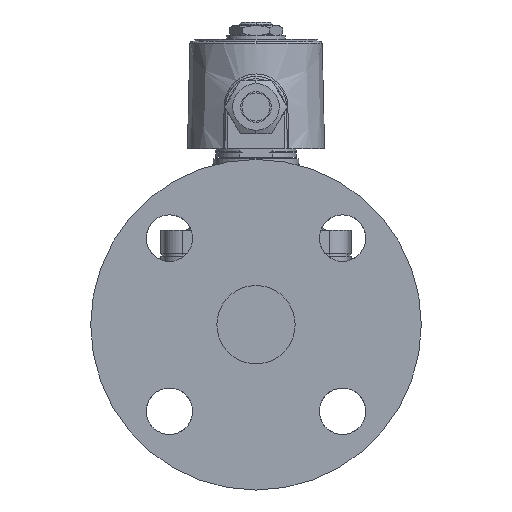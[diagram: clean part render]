
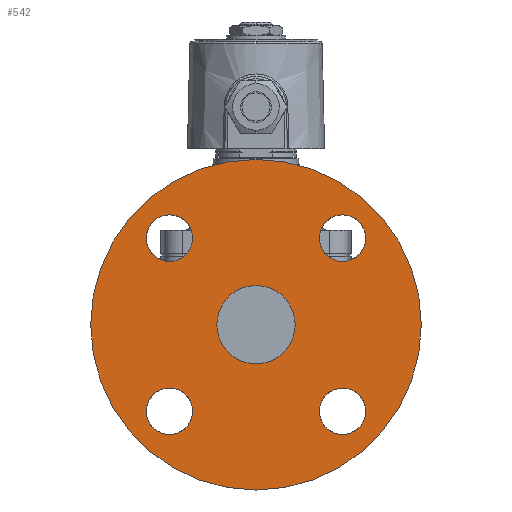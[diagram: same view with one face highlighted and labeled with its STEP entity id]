
A CAD part, left-side view. The second image highlights one B-rep face of the part: STEP entity #542.
In plain terms, the highlighted planar face has unit normal (-1, 0, 0).
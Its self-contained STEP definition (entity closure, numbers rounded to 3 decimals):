
#542=ADVANCED_FACE('',(#4184,#4185,#4186,#4187,#4188,#4189),#4183,.F.);
#4183=PLANE('',#8795);
#4184=FACE_OUTER_BOUND('',#8796,.T.);
#4185=FACE_BOUND('',#8797,.T.);
#4186=FACE_BOUND('',#8798,.T.);
#4187=FACE_BOUND('',#8799,.T.);
#4188=FACE_BOUND('',#8800,.T.);
#4189=FACE_BOUND('',#8801,.T.);
#8792=CARTESIAN_POINT('',(-80.,-126.913,77.5));
#8793=DIRECTION('',(1.,0.,0.));
#8794=DIRECTION('',(0.,0.,-1.));
#8795=AXIS2_PLACEMENT_3D('',#8792,#8793,#8794);
#8796=EDGE_LOOP('',(#10952,#10953));
#8797=EDGE_LOOP('',(#10954,#10955,#10956));
#8798=EDGE_LOOP('',(#10957,#10958,#10959));
#8799=EDGE_LOOP('',(#10960,#10961,#10962));
#8800=EDGE_LOOP('',(#10963,#10964));
#8801=EDGE_LOOP('',(#10965,#10966,#10967));
#10952=ORIENTED_EDGE('',*,*,#12150,.T.);
#10953=ORIENTED_EDGE('',*,*,#12151,.T.);
#10954=ORIENTED_EDGE('',*,*,#12152,.F.);
#10955=ORIENTED_EDGE('',*,*,#12153,.F.);
#10956=ORIENTED_EDGE('',*,*,#12154,.F.);
#10957=ORIENTED_EDGE('',*,*,#12155,.F.);
#10958=ORIENTED_EDGE('',*,*,#12156,.F.);
#10959=ORIENTED_EDGE('',*,*,#12157,.F.);
#10960=ORIENTED_EDGE('',*,*,#12158,.F.);
#10961=ORIENTED_EDGE('',*,*,#12159,.F.);
#10962=ORIENTED_EDGE('',*,*,#12160,.F.);
#10963=ORIENTED_EDGE('',*,*,#12161,.F.);
#10964=ORIENTED_EDGE('',*,*,#12162,.F.);
#10965=ORIENTED_EDGE('',*,*,#12163,.F.);
#10966=ORIENTED_EDGE('',*,*,#12164,.F.);
#10967=ORIENTED_EDGE('',*,*,#12165,.F.);
#12150=EDGE_CURVE('',#18143,#18144,#18145,.T.);
#12151=EDGE_CURVE('',#18144,#18143,#18151,.T.);
#12152=EDGE_CURVE('',#18157,#18158,#18159,.T.);
#12153=EDGE_CURVE('',#18165,#18157,#18166,.T.);
#12154=EDGE_CURVE('',#18158,#18165,#18172,.T.);
#12155=EDGE_CURVE('',#18178,#18179,#18180,.T.);
#12156=EDGE_CURVE('',#18186,#18178,#18187,.T.);
#12157=EDGE_CURVE('',#18179,#18186,#18193,.T.);
#12158=EDGE_CURVE('',#18199,#18200,#18201,.T.);
#12159=EDGE_CURVE('',#18207,#18199,#18208,.T.);
#12160=EDGE_CURVE('',#18200,#18207,#18214,.T.);
#12161=EDGE_CURVE('',#18220,#18221,#18222,.T.);
#12162=EDGE_CURVE('',#18221,#18220,#18228,.T.);
#12163=EDGE_CURVE('',#18234,#18235,#18236,.T.);
#12164=EDGE_CURVE('',#18242,#18234,#18243,.T.);
#12165=EDGE_CURVE('',#18235,#18242,#18249,.T.);
#18143=VERTEX_POINT('',#23923);
#18144=VERTEX_POINT('',#23924);
#18145=CIRCLE('',#23928,67.5);
#18151=CIRCLE('',#23932,67.5);
#18157=VERTEX_POINT('',#23933);
#18158=VERTEX_POINT('',#23934);
#18159=CIRCLE('',#23938,9.5);
#18165=VERTEX_POINT('',#23939);
#18166=CIRCLE('',#23943,9.5);
#18172=CIRCLE('',#23947,9.5);
#18178=VERTEX_POINT('',#23948);
#18179=VERTEX_POINT('',#23949);
#18180=CIRCLE('',#23953,9.5);
#18186=VERTEX_POINT('',#23954);
#18187=CIRCLE('',#23958,9.5);
#18193=CIRCLE('',#23962,9.5);
#18199=VERTEX_POINT('',#23963);
#18200=VERTEX_POINT('',#23964);
#18201=CIRCLE('',#23968,9.5);
#18207=VERTEX_POINT('',#23969);
#18208=CIRCLE('',#23973,9.5);
#18214=CIRCLE('',#23977,9.5);
#18220=VERTEX_POINT('',#23978);
#18221=VERTEX_POINT('',#23979);
#18222=CIRCLE('',#23983,16.);
#18228=CIRCLE('',#23987,16.);
#18234=VERTEX_POINT('',#23988);
#18235=VERTEX_POINT('',#23989);
#18236=CIRCLE('',#23993,9.5);
#18242=VERTEX_POINT('',#23994);
#18243=CIRCLE('',#23998,9.5);
#18249=CIRCLE('',#24002,9.5);
#23923=CARTESIAN_POINT('',(-80.,0.,67.5));
#23924=CARTESIAN_POINT('',(-80.,0.,-67.5));
#23925=CARTESIAN_POINT('',(-80.,0.,0.));
#23926=DIRECTION('',(-1.,0.,0.));
#23927=DIRECTION('',(0.,0.,1.));
#23928=AXIS2_PLACEMENT_3D('',#23925,#23926,#23927);
#23929=CARTESIAN_POINT('',(-80.,0.,0.));
#23930=DIRECTION('',(-1.,0.,0.));
#23931=DIRECTION('',(0.,0.,1.));
#23932=AXIS2_PLACEMENT_3D('',#23929,#23930,#23931);
#23933=CARTESIAN_POINT('',(-80.,35.355,25.855));
#23934=CARTESIAN_POINT('',(-80.,25.855,35.355));
#23935=CARTESIAN_POINT('',(-80.,35.355,35.355));
#23936=DIRECTION('',(-1.,0.,0.));
#23937=DIRECTION('',(0.,-1.,0.));
#23938=AXIS2_PLACEMENT_3D('',#23935,#23936,#23937);
#23939=CARTESIAN_POINT('',(-80.,35.356,44.855));
#23940=CARTESIAN_POINT('',(-80.,35.355,35.355));
#23941=DIRECTION('',(-1.,0.,0.));
#23942=DIRECTION('',(0.,-1.,0.));
#23943=AXIS2_PLACEMENT_3D('',#23940,#23941,#23942);
#23944=CARTESIAN_POINT('',(-80.,35.355,35.355));
#23945=DIRECTION('',(-1.,0.,0.));
#23946=DIRECTION('',(0.,-1.,0.));
#23947=AXIS2_PLACEMENT_3D('',#23944,#23945,#23946);
#23948=CARTESIAN_POINT('',(-80.,35.355,-44.855));
#23949=CARTESIAN_POINT('',(-80.,25.855,-35.355));
#23950=CARTESIAN_POINT('',(-80.,35.355,-35.355));
#23951=DIRECTION('',(-1.,0.,0.));
#23952=DIRECTION('',(0.,-1.,0.));
#23953=AXIS2_PLACEMENT_3D('',#23950,#23951,#23952);
#23954=CARTESIAN_POINT('',(-80.,35.356,-25.855));
#23955=CARTESIAN_POINT('',(-80.,35.355,-35.355));
#23956=DIRECTION('',(-1.,0.,0.));
#23957=DIRECTION('',(0.,-1.,0.));
#23958=AXIS2_PLACEMENT_3D('',#23955,#23956,#23957);
#23959=CARTESIAN_POINT('',(-80.,35.355,-35.355));
#23960=DIRECTION('',(-1.,0.,0.));
#23961=DIRECTION('',(0.,-1.,0.));
#23962=AXIS2_PLACEMENT_3D('',#23959,#23960,#23961);
#23963=CARTESIAN_POINT('',(-80.,-35.355,-44.855));
#23964=CARTESIAN_POINT('',(-80.,-44.855,-35.355));
#23965=CARTESIAN_POINT('',(-80.,-35.355,-35.355));
#23966=DIRECTION('',(-1.,0.,0.));
#23967=DIRECTION('',(0.,-1.,0.));
#23968=AXIS2_PLACEMENT_3D('',#23965,#23966,#23967);
#23969=CARTESIAN_POINT('',(-80.,-35.354,-25.855));
#23970=CARTESIAN_POINT('',(-80.,-35.355,-35.355));
#23971=DIRECTION('',(-1.,0.,0.));
#23972=DIRECTION('',(0.,-1.,0.));
#23973=AXIS2_PLACEMENT_3D('',#23970,#23971,#23972);
#23974=CARTESIAN_POINT('',(-80.,-35.355,-35.355));
#23975=DIRECTION('',(-1.,0.,0.));
#23976=DIRECTION('',(0.,-1.,0.));
#23977=AXIS2_PLACEMENT_3D('',#23974,#23975,#23976);
#23978=CARTESIAN_POINT('',(-80.,0.,-16.));
#23979=CARTESIAN_POINT('',(-80.,0.,16.));
#23980=CARTESIAN_POINT('',(-80.,0.,0.));
#23981=DIRECTION('',(-1.,0.,0.));
#23982=DIRECTION('',(0.,0.,1.));
#23983=AXIS2_PLACEMENT_3D('',#23980,#23981,#23982);
#23984=CARTESIAN_POINT('',(-80.,0.,0.));
#23985=DIRECTION('',(-1.,0.,0.));
#23986=DIRECTION('',(0.,0.,1.));
#23987=AXIS2_PLACEMENT_3D('',#23984,#23985,#23986);
#23988=CARTESIAN_POINT('',(-80.,-35.355,25.855));
#23989=CARTESIAN_POINT('',(-80.,-44.855,35.355));
#23990=CARTESIAN_POINT('',(-80.,-35.355,35.355));
#23991=DIRECTION('',(-1.,0.,0.));
#23992=DIRECTION('',(0.,-1.,0.));
#23993=AXIS2_PLACEMENT_3D('',#23990,#23991,#23992);
#23994=CARTESIAN_POINT('',(-80.,-35.354,44.855));
#23995=CARTESIAN_POINT('',(-80.,-35.355,35.355));
#23996=DIRECTION('',(-1.,0.,0.));
#23997=DIRECTION('',(0.,-1.,0.));
#23998=AXIS2_PLACEMENT_3D('',#23995,#23996,#23997);
#23999=CARTESIAN_POINT('',(-80.,-35.355,35.355));
#24000=DIRECTION('',(-1.,0.,0.));
#24001=DIRECTION('',(0.,-1.,0.));
#24002=AXIS2_PLACEMENT_3D('',#23999,#24000,#24001);
